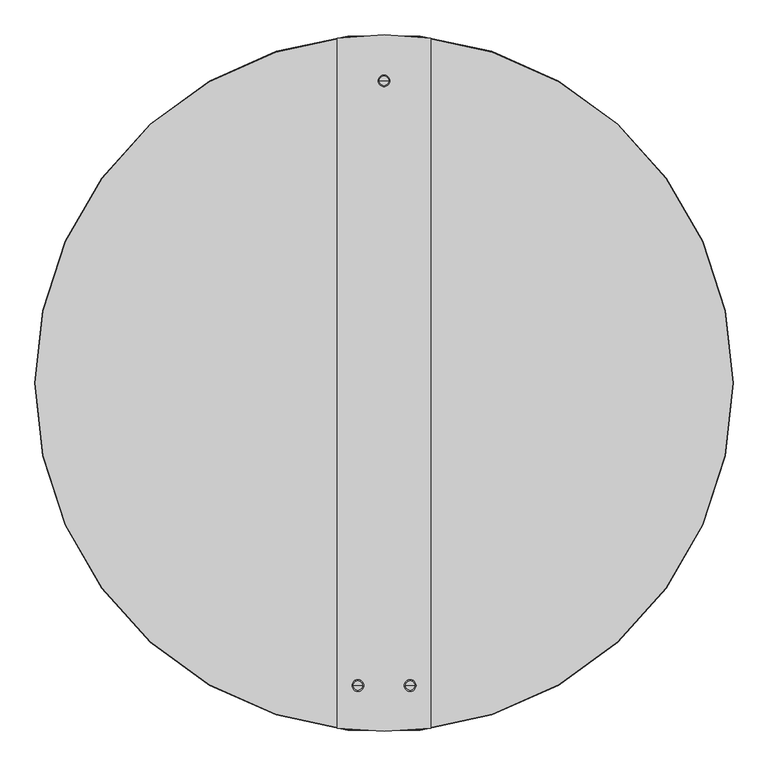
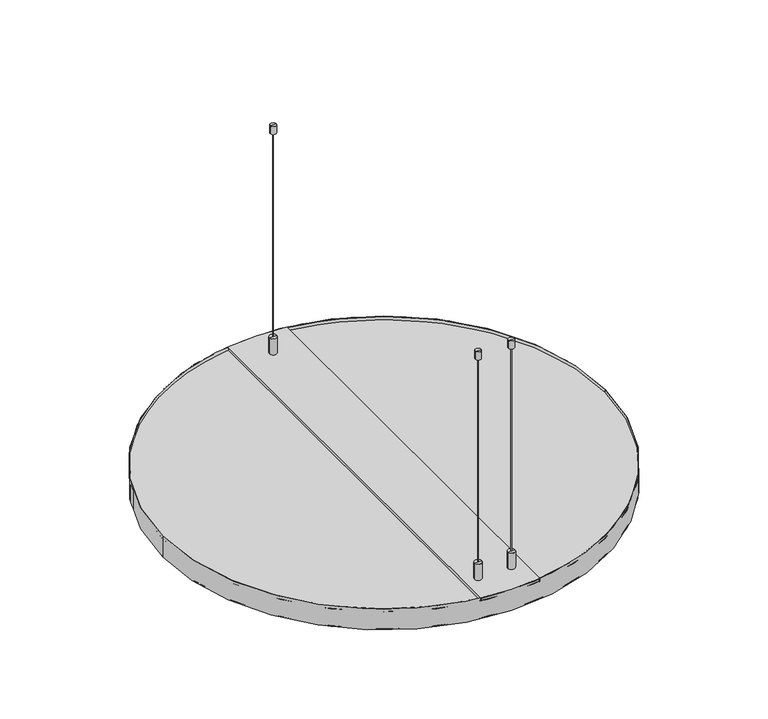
"""IFC4 building model written with IfcOpenShell, lengths in millimetres: proxy geometry, durlum_TOMEO-R : durlum_TOMEO-R 1200 RG-L30 TR."""

from ifc_helpers import new_model, si_unit, point, frame, origin, origin_with_axes, origin_2d, place, context, project, spatial, circle_curve, trimmed, segment, composite_curve, outline, extrude, source, transform, mapped, element, save
from ifc_brep_helpers import plane_surface, cylinder_surface, advanced_brep


def generic_models_b58cbed9(model_context):
    return source(origin(), model_context, "Body", "SolidModel", [
        advanced_brep(
        [(-55.0, -520.0, 106.0), (-35.0, -520.0, 106.0), (-35.0, -520.0, 60.0), (-55.0, -520.0, 60.0), (-45.75, -520.0, 106.0), (-44.25, -520.0, 106.0), (-45.75, -520.0, 690.7994899), (-44.25, -520.0, 690.7994899), (-53.0, -520.0, 690.7994899), (-37.0, -520.0, 690.7994899), (-53.0, -520.0, 712.9994899), (-37.0, -520.0, 712.9994899), (-45.0, -520.0, 712.9994899), (-45.0, -520.0, 60.0)],
        [
            (0, 1, circle_curve(frame((-45.0, -520.0, 106.0), z_axis=(0.0, 0.0, -1.0), x_axis=(1.0, 0.0, 0.0)), 10.0)),
            (1, 2),
            (2, 3, circle_curve(frame((-45.0, -520.0, 60.0), z_axis=(0.0, 0.0, 1.0), x_axis=(1.0, 0.0, 0.0)), 10.0)),
            (3, 0),
            (1, 0, circle_curve(frame((-45.0, -520.0, 106.0), z_axis=(0.0, 0.0, -1.0), x_axis=(1.0, 0.0, 0.0)), 10.0)),
            (3, 2, circle_curve(frame((-45.0, -520.0, 60.0), z_axis=(0.0, 0.0, 1.0), x_axis=(1.0, 0.0, 0.0)), 10.0)),
            (4, 5, circle_curve(frame((-45.0, -520.0, 106.0), z_axis=(0.0, 0.0, -1.0), x_axis=(1.0, 0.0, 0.0)), 0.75)),
            (5, 1),
            (0, 4),
            (5, 4, circle_curve(frame((-45.0, -520.0, 106.0), z_axis=(0.0, 0.0, -1.0), x_axis=(1.0, 0.0, 0.0)), 0.75)),
            (6, 7, circle_curve(frame((-45.0, -520.0, 690.7994899), z_axis=(0.0, 0.0, -1.0), x_axis=(1.0, 0.0, 0.0)), 0.75)),
            (7, 5),
            (4, 6),
            (7, 6, circle_curve(frame((-45.0, -520.0, 690.7994899), z_axis=(0.0, 0.0, -1.0), x_axis=(1.0, 0.0, 0.0)), 0.75)),
            (8, 9, circle_curve(frame((-45.0, -520.0, 690.7994899), z_axis=(0.0, 0.0, -1.0), x_axis=(1.0, 0.0, 0.0)), 8.0)),
            (9, 7),
            (6, 8),
            (9, 8, circle_curve(frame((-45.0, -520.0, 690.7994899), z_axis=(0.0, 0.0, -1.0), x_axis=(1.0, 0.0, 0.0)), 8.0)),
            (10, 11, circle_curve(frame((-45.0, -520.0, 712.9994899), z_axis=(0.0, 0.0, -1.0), x_axis=(1.0, 0.0, 0.0)), 8.0)),
            (11, 9),
            (8, 10),
            (11, 10, circle_curve(frame((-45.0, -520.0, 712.9994899), z_axis=(0.0, 0.0, -1.0), x_axis=(1.0, 0.0, 0.0)), 8.0)),
            (12, 11),
            (10, 12),
            (2, 13),
            (13, 3),
        ],
        [
            cylinder_surface(frame((-45.0, -520.0, 712.9994899), z_axis=(0.0, 0.0, 1.0), x_axis=(1.0, 0.0, 0.0)), 10.0),
            plane_surface(frame((-45.0, -520.0, 106.0), z_axis=(0.0, 0.0, 1.0), x_axis=(1.0, 0.0, 0.0))),
            cylinder_surface(frame((-45.0, -520.0, 712.9994899), z_axis=(0.0, 0.0, 1.0), x_axis=(1.0, 0.0, 0.0)), 0.75),
            plane_surface(frame((-45.0, -520.0, 690.7994899), z_axis=(0.0, 0.0, -1.0), x_axis=(1.0, 0.0, 0.0))),
            cylinder_surface(frame((-45.0, -520.0, 712.9994899), z_axis=(0.0, 0.0, 1.0), x_axis=(1.0, 0.0, 0.0)), 8.0),
            plane_surface(frame((-45.0, -520.0, 712.9994899), z_axis=(0.0, 0.0, 1.0), x_axis=(1.0, 0.0, 0.0))),
            plane_surface(frame((-45.0, -520.0, 60.0), z_axis=(0.0, 0.0, -1.0), x_axis=(1.0, 0.0, 0.0))),
        ],
        [
            (0, [[1, 2, 3, 4]]),
            (0, [[5, -4, 6, -2]]),
            (1, [[7, 8, -1, 9]]),
            (1, [[10, -9, -5, -8]]),
            (2, [[11, 12, -7, 13]]),
            (2, [[14, -13, -10, -12]]),
            (3, [[15, 16, -11, 17]]),
            (3, [[18, -17, -14, -16]]),
            (4, [[19, 20, -15, 21]]),
            (4, [[22, -21, -18, -20]]),
            (5, [[23, -19, 24]]),
            (5, [[-24, -22, -23]]),
            (6, [[-3, 25, 26]]),
            (6, [[-6, -26, -25]]),
        ],
    ),
        advanced_brep(
        [(35.0, -520.0, 106.0), (55.0, -520.0, 106.0), (55.0, -520.0, 60.0), (35.0, -520.0, 60.0), (44.25, -520.0, 106.0), (45.75, -520.0, 106.0), (44.25, -520.0, 690.7994899), (45.75, -520.0, 690.7994899), (37.0, -520.0, 690.7994899), (53.0, -520.0, 690.7994899), (37.0, -520.0, 712.9994899), (53.0, -520.0, 712.9994899), (45.0, -520.0, 712.9994899), (45.0, -520.0, 60.0)],
        [
            (0, 1, circle_curve(frame((45.0, -520.0, 106.0), z_axis=(0.0, 0.0, -1.0), x_axis=(1.0, 0.0, 0.0)), 10.0)),
            (1, 2),
            (2, 3, circle_curve(frame((45.0, -520.0, 60.0), z_axis=(0.0, 0.0, 1.0), x_axis=(1.0, 0.0, 0.0)), 10.0)),
            (3, 0),
            (1, 0, circle_curve(frame((45.0, -520.0, 106.0), z_axis=(0.0, 0.0, -1.0), x_axis=(1.0, 0.0, 0.0)), 10.0)),
            (3, 2, circle_curve(frame((45.0, -520.0, 60.0), z_axis=(0.0, 0.0, 1.0), x_axis=(1.0, 0.0, 0.0)), 10.0)),
            (4, 5, circle_curve(frame((45.0, -520.0, 106.0), z_axis=(0.0, 0.0, -1.0), x_axis=(1.0, 0.0, 0.0)), 0.75)),
            (5, 1),
            (0, 4),
            (5, 4, circle_curve(frame((45.0, -520.0, 106.0), z_axis=(0.0, 0.0, -1.0), x_axis=(1.0, 0.0, 0.0)), 0.75)),
            (6, 7, circle_curve(frame((45.0, -520.0, 690.7994899), z_axis=(0.0, 0.0, -1.0), x_axis=(1.0, 0.0, 0.0)), 0.75)),
            (7, 5),
            (4, 6),
            (7, 6, circle_curve(frame((45.0, -520.0, 690.7994899), z_axis=(0.0, 0.0, -1.0), x_axis=(1.0, 0.0, 0.0)), 0.75)),
            (8, 9, circle_curve(frame((45.0, -520.0, 690.7994899), z_axis=(0.0, 0.0, -1.0), x_axis=(1.0, 0.0, 0.0)), 8.0)),
            (9, 7),
            (6, 8),
            (9, 8, circle_curve(frame((45.0, -520.0, 690.7994899), z_axis=(0.0, 0.0, -1.0), x_axis=(1.0, 0.0, 0.0)), 8.0)),
            (10, 11, circle_curve(frame((45.0, -520.0, 712.9994899), z_axis=(0.0, 0.0, -1.0), x_axis=(1.0, 0.0, 0.0)), 8.0)),
            (11, 9),
            (8, 10),
            (11, 10, circle_curve(frame((45.0, -520.0, 712.9994899), z_axis=(0.0, 0.0, -1.0), x_axis=(1.0, 0.0, 0.0)), 8.0)),
            (12, 11),
            (10, 12),
            (2, 13),
            (13, 3),
        ],
        [
            cylinder_surface(frame((45.0, -520.0, 712.9994899), z_axis=(0.0, 0.0, 1.0), x_axis=(1.0, 0.0, 0.0)), 10.0),
            plane_surface(frame((45.0, -520.0, 106.0), z_axis=(0.0, 0.0, 1.0), x_axis=(1.0, 0.0, 0.0))),
            cylinder_surface(frame((45.0, -520.0, 712.9994899), z_axis=(0.0, 0.0, 1.0), x_axis=(1.0, 0.0, 0.0)), 0.75),
            plane_surface(frame((45.0, -520.0, 690.7994899), z_axis=(0.0, 0.0, -1.0), x_axis=(1.0, 0.0, 0.0))),
            cylinder_surface(frame((45.0, -520.0, 712.9994899), z_axis=(0.0, 0.0, 1.0), x_axis=(1.0, 0.0, 0.0)), 8.0),
            plane_surface(frame((45.0, -520.0, 712.9994899), z_axis=(0.0, 0.0, 1.0), x_axis=(1.0, 0.0, 0.0))),
            plane_surface(frame((45.0, -520.0, 60.0), z_axis=(0.0, 0.0, -1.0), x_axis=(1.0, 0.0, 0.0))),
        ],
        [
            (0, [[1, 2, 3, 4]]),
            (0, [[5, -4, 6, -2]]),
            (1, [[7, 8, -1, 9]]),
            (1, [[10, -9, -5, -8]]),
            (2, [[11, 12, -7, 13]]),
            (2, [[14, -13, -10, -12]]),
            (3, [[15, 16, -11, 17]]),
            (3, [[18, -17, -14, -16]]),
            (4, [[19, 20, -15, 21]]),
            (4, [[22, -21, -18, -20]]),
            (5, [[23, -19, 24]]),
            (5, [[-24, -22, -23]]),
            (6, [[-3, 25, 26]]),
            (6, [[-6, -26, -25]]),
        ],
    ),
        advanced_brep(
        [(-10.0, 520.0, 106.0), (10.0, 520.0, 106.0), (10.0, 520.0, 60.0), (-10.0, 520.0, 60.0), (-0.75, 520.0, 106.0), (0.75, 520.0, 106.0), (-0.75, 520.0, 690.7994899), (0.75, 520.0, 690.7994899), (-8.0, 520.0, 690.7994899), (8.0, 520.0, 690.7994899), (-8.0, 520.0, 712.9994899), (8.0, 520.0, 712.9994899), (0.0, 520.0, 712.9994899), (0.0, 520.0, 60.0)],
        [
            (0, 1, circle_curve(frame((0.0, 520.0, 106.0), z_axis=(0.0, 0.0, -1.0), x_axis=(1.0, 0.0, 0.0)), 10.0)),
            (1, 2),
            (2, 3, circle_curve(frame((0.0, 520.0, 60.0), z_axis=(0.0, 0.0, 1.0), x_axis=(1.0, 0.0, 0.0)), 10.0)),
            (3, 0),
            (1, 0, circle_curve(frame((0.0, 520.0, 106.0), z_axis=(0.0, 0.0, -1.0), x_axis=(1.0, 0.0, 0.0)), 10.0)),
            (3, 2, circle_curve(frame((0.0, 520.0, 60.0), z_axis=(0.0, 0.0, 1.0), x_axis=(1.0, 0.0, 0.0)), 10.0)),
            (4, 5, circle_curve(frame((0.0, 520.0, 106.0), z_axis=(0.0, 0.0, -1.0), x_axis=(1.0, 0.0, 0.0)), 0.75)),
            (5, 1),
            (0, 4),
            (5, 4, circle_curve(frame((0.0, 520.0, 106.0), z_axis=(0.0, 0.0, -1.0), x_axis=(1.0, 0.0, 0.0)), 0.75)),
            (6, 7, circle_curve(frame((0.0, 520.0, 690.7994899), z_axis=(0.0, 0.0, -1.0), x_axis=(1.0, 0.0, 0.0)), 0.75)),
            (7, 5),
            (4, 6),
            (7, 6, circle_curve(frame((0.0, 520.0, 690.7994899), z_axis=(0.0, 0.0, -1.0), x_axis=(1.0, 0.0, 0.0)), 0.75)),
            (8, 9, circle_curve(frame((0.0, 520.0, 690.7994899), z_axis=(0.0, 0.0, -1.0), x_axis=(1.0, 0.0, 0.0)), 8.0)),
            (9, 7),
            (6, 8),
            (9, 8, circle_curve(frame((0.0, 520.0, 690.7994899), z_axis=(0.0, 0.0, -1.0), x_axis=(1.0, 0.0, 0.0)), 8.0)),
            (10, 11, circle_curve(frame((0.0, 520.0, 712.9994899), z_axis=(0.0, 0.0, -1.0), x_axis=(1.0, 0.0, 0.0)), 8.0)),
            (11, 9),
            (8, 10),
            (11, 10, circle_curve(frame((0.0, 520.0, 712.9994899), z_axis=(0.0, 0.0, -1.0), x_axis=(1.0, 0.0, 0.0)), 8.0)),
            (12, 11),
            (10, 12),
            (2, 13),
            (13, 3),
        ],
        [
            cylinder_surface(frame((0.0, 520.0, 712.9994899), z_axis=(0.0, 0.0, 1.0), x_axis=(1.0, 0.0, 0.0)), 10.0),
            plane_surface(frame((0.0, 520.0, 106.0), z_axis=(0.0, 0.0, 1.0), x_axis=(1.0, 0.0, 0.0))),
            cylinder_surface(frame((0.0, 520.0, 712.9994899), z_axis=(0.0, 0.0, 1.0), x_axis=(1.0, 0.0, 0.0)), 0.75),
            plane_surface(frame((0.0, 520.0, 690.7994899), z_axis=(0.0, 0.0, -1.0), x_axis=(1.0, 0.0, 0.0))),
            cylinder_surface(frame((0.0, 520.0, 712.9994899), z_axis=(0.0, 0.0, 1.0), x_axis=(1.0, 0.0, 0.0)), 8.0),
            plane_surface(frame((0.0, 520.0, 712.9994899), z_axis=(0.0, 0.0, 1.0), x_axis=(1.0, 0.0, 0.0))),
            plane_surface(frame((0.0, 520.0, 60.0), z_axis=(0.0, 0.0, -1.0), x_axis=(1.0, 0.0, 0.0))),
        ],
        [
            (0, [[1, 2, 3, 4]]),
            (0, [[5, -4, 6, -2]]),
            (1, [[7, 8, -1, 9]]),
            (1, [[10, -9, -5, -8]]),
            (2, [[11, 12, -7, 13]]),
            (2, [[14, -13, -10, -12]]),
            (3, [[15, 16, -11, 17]]),
            (3, [[18, -17, -14, -16]]),
            (4, [[19, 20, -15, 21]]),
            (4, [[22, -21, -18, -20]]),
            (5, [[23, -19, 24]]),
            (5, [[-24, -22, -23]]),
            (6, [[-3, 25, 26]]),
            (6, [[-6, -26, -25]]),
        ],
    ),
        advanced_brep(
        [(-80.0, 593.6337255, 60.0), (-80.0, -593.6337255, 60.0), (0.0, -599.0, 60.0), (80.0, -593.6337255, 60.0), (80.0, 593.6337255, 60.0), (0.0, 599.0, 60.0), (80.0, -593.6337255, 51.2547795), (80.0, 593.6337255, 51.2547795), (78.5, -593.8339414, 51.2547795), (78.5, 593.8339414, 51.2547795), (78.5, -593.8339414, 58.5), (78.5, 593.8339414, 58.5), (0.0, -599.0, 58.5), (-78.5, -593.8339414, 58.5), (-78.5, 593.8339414, 58.5), (0.0, 599.0, 58.5), (-78.5, -593.8339414, 51.2547795), (-78.5, 593.8339414, 51.2547795), (-80.0, -593.6337255, 51.2547795), (-80.0, 593.6337255, 51.2547795)],
        [
            (0, 1),
            (1, 2, circle_curve(frame((0.0, 0.0, 60.0), z_axis=(0.0, 0.0, 1.0), x_axis=(0.0, -1.0, 0.0)), 599.0)),
            (2, 3, circle_curve(frame((0.0, 0.0, 60.0), z_axis=(0.0, 0.0, 1.0), x_axis=(0.0, -1.0, 0.0)), 599.0)),
            (3, 4),
            (4, 5, circle_curve(frame((0.0, 0.0, 60.0), z_axis=(0.0, 0.0, 1.0), x_axis=(0.0, -1.0, 0.0)), 599.0)),
            (5, 0, circle_curve(frame((0.0, 0.0, 60.0), z_axis=(0.0, 0.0, 1.0), x_axis=(0.0, -1.0, 0.0)), 599.0)),
            (3, 6),
            (6, 7),
            (7, 4),
            (6, 8, circle_curve(frame((0.0, 0.0, 51.2547795), z_axis=(0.0, 0.0, -1.0), x_axis=(0.0, -1.0, 0.0)), 599.0)),
            (8, 9),
            (9, 7, circle_curve(frame((0.0, 0.0, 51.2547795), z_axis=(0.0, 0.0, -1.0), x_axis=(0.0, -1.0, 0.0)), 599.0)),
            (8, 10),
            (10, 11),
            (11, 9),
            (10, 12, circle_curve(frame((0.0, 0.0, 58.5), z_axis=(0.0, 0.0, -1.0), x_axis=(0.0, -1.0, 0.0)), 599.0)),
            (12, 13, circle_curve(frame((0.0, 0.0, 58.5), z_axis=(0.0, 0.0, -1.0), x_axis=(0.0, -1.0, 0.0)), 599.0)),
            (13, 14),
            (14, 15, circle_curve(frame((0.0, 0.0, 58.5), z_axis=(0.0, 0.0, -1.0), x_axis=(0.0, -1.0, 0.0)), 599.0)),
            (15, 11, circle_curve(frame((0.0, 0.0, 58.5), z_axis=(0.0, 0.0, -1.0), x_axis=(0.0, -1.0, 0.0)), 599.0)),
            (13, 16),
            (16, 17),
            (17, 14),
            (16, 18, circle_curve(frame((0.0, 0.0, 51.2547795), z_axis=(0.0, 0.0, -1.0), x_axis=(0.0, -1.0, 0.0)), 599.0)),
            (18, 19),
            (19, 17, circle_curve(frame((0.0, 0.0, 51.2547795), z_axis=(0.0, 0.0, -1.0), x_axis=(0.0, -1.0, 0.0)), 599.0)),
            (0, 19),
            (18, 1),
            (5, 15),
            (12, 2),
        ],
        [
            plane_surface(frame((-80.0, 599.0, 60.0), z_axis=(0.0, 0.0, 1.0), x_axis=(0.0, -1.0, 0.0))),
            plane_surface(frame((80.0, 599.0, 60.0), z_axis=(1.0, 0.0, 0.0), x_axis=(0.0, -1.0, 0.0))),
            plane_surface(frame((80.0, 599.0, 51.2547795), z_axis=(0.0, 0.0, -1.0), x_axis=(0.0, -1.0, 0.0))),
            plane_surface(frame((78.5, 599.0, 51.2547795), z_axis=(-1.0, 0.0, 0.0), x_axis=(0.0, -1.0, 0.0))),
            plane_surface(frame((78.5, 599.0, 58.5), z_axis=(0.0, 0.0, -1.0), x_axis=(0.0, -1.0, 0.0))),
            plane_surface(frame((-78.5, 599.0, 58.5), z_axis=(1.0, 0.0, 0.0), x_axis=(0.0, -1.0, 0.0))),
            plane_surface(frame((-78.5, 599.0, 51.2547795), z_axis=(0.0, 0.0, -1.0), x_axis=(0.0, -1.0, 0.0))),
            plane_surface(frame((-80.0, 599.0, 51.2547795), z_axis=(-1.0, 0.0, 0.0), x_axis=(0.0, -1.0, 0.0))),
            cylinder_surface(frame((0.0, 0.0, 243.6547052), z_axis=(0.0, 0.0, -1.0), x_axis=(0.0, -1.0, 0.0)), 599.0),
        ],
        [
            (0, [[1, 2, 3, 4, 5, 6]]),
            (1, [[-4, 7, 8, 9]]),
            (2, [[-8, 10, 11, 12]]),
            (3, [[-11, 13, 14, 15]]),
            (4, [[-14, 16, 17, 18, 19, 20]]),
            (5, [[-18, 21, 22, 23]]),
            (6, [[-22, 24, 25, 26]]),
            (7, [[-1, 27, -25, 28]]),
            (8, [[29, -19, -23, -26, -27, -6]]),
            (8, [[30, -2, -28, -24, -21, -17]]),
            (8, [[-29, -5, -9, -12, -15, -20]]),
            (8, [[-30, -16, -13, -10, -7, -3]]),
        ],
    ),
        extrude(outline(composite_curve([segment(trimmed(circle_curve(origin_2d(), 599.0), [point((-599.0, 0.0))], [point((599.0, 0.0))], False, "CARTESIAN"), True, "CONTINUOUS"), segment(trimmed(circle_curve(origin_2d(), 599.0), [point((599.0, 0.0))], [point((-599.0, 0.0))], False, "CARTESIAN"), True, "CONTINUOUS")], self_intersect=False)), frame((0.0, 0.0, 1.0), z_axis=(0.0, 0.0, 1.0), x_axis=(1.0, 0.0, 0.0)), (0.0, 0.0, 1.0), 50.2547795),
        extrude(outline(composite_curve([segment(trimmed(circle_curve(origin_2d(), 599.0), [point((-599.0, 0.0))], [point((599.0, 0.0))], False, "CARTESIAN"), True, "CONTINUOUS"), segment(trimmed(circle_curve(origin_2d(), 599.0), [point((599.0, 0.0))], [point((-599.0, 0.0))], False, "CARTESIAN"), True, "CONTINUOUS")], self_intersect=False)), frame((0.0, 0.0, 1.0), z_axis=(0.0, 0.0, 1.0), x_axis=(1.0, 0.0, 0.0)), (0.0, 0.0, 1.0), 1.0),
        extrude(outline(composite_curve([segment(trimmed(circle_curve(origin_2d(), 599.0), [point((-599.0, 0.0))], [point((599.0, 0.0))], False, "CARTESIAN"), True, "CONTINUOUS"), segment(trimmed(circle_curve(origin_2d(), 599.0), [point((599.0, 0.0))], [point((-599.0, 0.0))], False, "CARTESIAN"), True, "CONTINUOUS")], self_intersect=False)), origin_with_axes(), (0.0, 0.0, 1.0), 1.0),
        extrude(outline(composite_curve([segment(trimmed(circle_curve(origin_2d(), 600.0), [point((-600.0, 0.0))], [point((600.0, 0.0))], False, "CARTESIAN"), True, "CONTINUOUS"), segment(trimmed(circle_curve(origin_2d(), 600.0), [point((600.0, 0.0))], [point((-600.0, 0.0))], False, "CARTESIAN"), True, "CONTINUOUS")], self_intersect=False), holes=[composite_curve([segment(trimmed(circle_curve(origin_2d(), 599.0), [point((-599.0, 0.0))], [point((599.0, 0.0))], True, "CARTESIAN"), True, "CONTINUOUS"), segment(trimmed(circle_curve(origin_2d(), 599.0), [point((599.0, 0.0))], [point((-599.0, 0.0))], True, "CARTESIAN"), True, "CONTINUOUS")], self_intersect=False)]), origin_with_axes(), (0.0, 0.0, 1.0), 60.0),
    ])


if __name__ == "__main__":
    model = new_model("IFC4")
    model_context = context("Model", 3, world=origin())
    ifc_project = project(units=[si_unit("LENGTHUNIT", "METRE", prefix="MILLI")], contexts=[model_context])
    site = spatial("IfcSite", under=ifc_project)
    building = spatial("IfcBuilding", under=site)
    placement = place(None, origin())
    generic_models_shape = generic_models_b58cbed9(model_context)
    element("IfcBuildingElementProxy", 1, Name="durlum_TOMEO-R : durlum_TOMEO-R 1200 RG-L30 TR", ObjectType="durlum_TOMEO-R : durlum_TOMEO-R 1200 RG-L30 TR", at=placement, inside=building, context=model_context, shape_type="MappedRepresentation", body=[
        mapped(generic_models_shape, transform((0.0, 0.0, 0.0), x_axis=(1.0, 0.0, 0.0), y_axis=(0.0, 1.0, 0.0), z_axis=(0.0, 0.0, 1.0))),
    ])
    save(model, "model.ifc")
